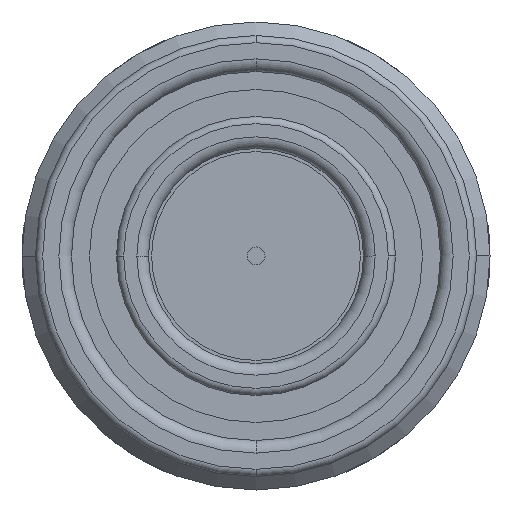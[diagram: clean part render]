
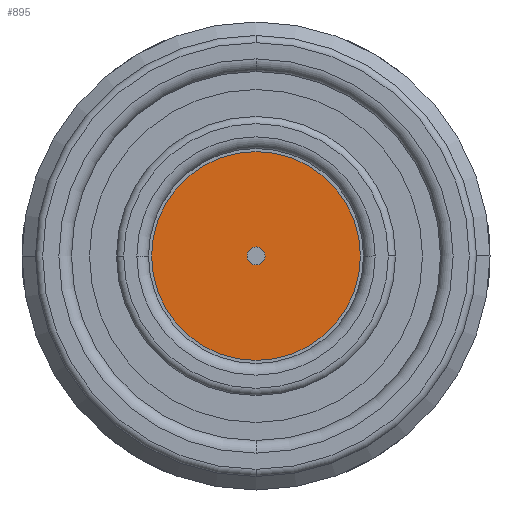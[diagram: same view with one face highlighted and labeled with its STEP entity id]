
A CAD part, front view. The second image highlights one B-rep face of the part: STEP entity #895.
In plain terms, the highlighted planar face has unit normal (0, -1, 0).
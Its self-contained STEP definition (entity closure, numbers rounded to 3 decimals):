
#722=PLANE('',#2886);
#762=FACE_BOUND('',#1201,.T.);
#763=FACE_BOUND('',#1202,.T.);
#895=ADVANCED_FACE('',(#762,#763),#722,.F.);
#1201=EDGE_LOOP('',(#1771,#1772));
#1202=EDGE_LOOP('',(#1773,#1774));
#1771=ORIENTED_EDGE('',*,*,#2442,.F.);
#1772=ORIENTED_EDGE('',*,*,#2325,.F.);
#1773=ORIENTED_EDGE('',*,*,#2368,.F.);
#1774=ORIENTED_EDGE('',*,*,#2441,.F.);
#2117=VERTEX_POINT('',#3899);
#2118=VERTEX_POINT('',#3901);
#2159=VERTEX_POINT('',#4010);
#2160=VERTEX_POINT('',#4011);
#2325=EDGE_CURVE('',#2117,#2118,#2595,.T.);
#2368=EDGE_CURVE('',#2159,#2160,#2613,.T.);
#2441=EDGE_CURVE('',#2160,#2159,#2652,.T.);
#2442=EDGE_CURVE('',#2118,#2117,#2653,.T.);
#2595=CIRCLE('',#2788,0.5);
#2613=CIRCLE('',#2813,5.8);
#2652=CIRCLE('',#2883,5.8);
#2653=CIRCLE('',#2885,0.5);
#2788=AXIS2_PLACEMENT_3D('',#3900,#3174,#3175);
#2813=AXIS2_PLACEMENT_3D('',#4009,#3243,#3244);
#2883=AXIS2_PLACEMENT_3D('',#4186,#3407,#3408);
#2885=AXIS2_PLACEMENT_3D('',#4188,#3411,#3412);
#2886=AXIS2_PLACEMENT_3D('',#4189,#3413,#3414);
#3174=DIRECTION('',(0.,-1.,0.));
#3175=DIRECTION('',(1.,0.,0.));
#3243=DIRECTION('',(0.,1.,0.));
#3244=DIRECTION('',(-1.,0.,0.));
#3407=DIRECTION('',(0.,1.,0.));
#3408=DIRECTION('',(-1.,0.,0.));
#3411=DIRECTION('',(0.,-1.,0.));
#3412=DIRECTION('',(1.,0.,0.));
#3413=DIRECTION('',(0.,1.,0.));
#3414=DIRECTION('',(-1.,0.,0.));
#3899=CARTESIAN_POINT('',(-0.5,-73.8,0.));
#3900=CARTESIAN_POINT('',(0.,-73.8,0.));
#3901=CARTESIAN_POINT('',(0.5,-73.8,0.));
#4009=CARTESIAN_POINT('',(0.,-73.8,0.));
#4010=CARTESIAN_POINT('',(-5.8,-73.8,0.));
#4011=CARTESIAN_POINT('',(5.8,-73.8,0.));
#4186=CARTESIAN_POINT('',(0.,-73.8,0.));
#4188=CARTESIAN_POINT('',(0.,-73.8,0.));
#4189=CARTESIAN_POINT('',(5.8,-73.8,0.));
